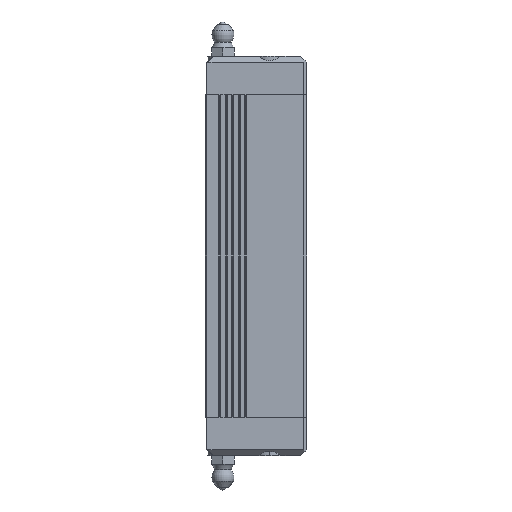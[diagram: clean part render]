
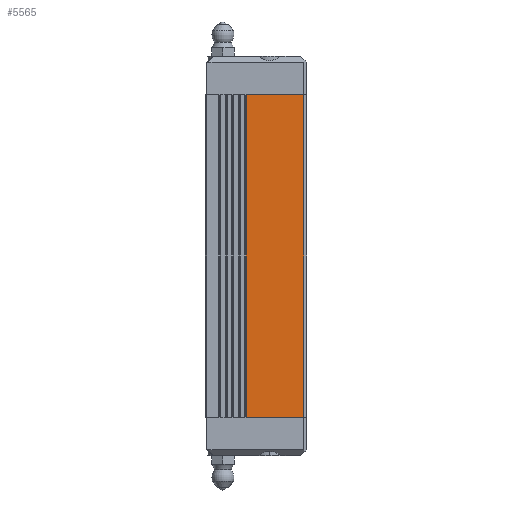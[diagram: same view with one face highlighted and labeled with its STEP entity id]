
A CAD part, left-side view. The second image highlights one B-rep face of the part: STEP entity #5565.
In plain terms, the highlighted planar face has unit normal (-1, 0, 0).
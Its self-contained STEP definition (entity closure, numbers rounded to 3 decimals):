
#5536 = EDGE_CURVE ( 'NONE', #5537, #5538, #15986, .T. ) ;
#5537 = VERTEX_POINT ( 'NONE', #15982 ) ;
#5538 = VERTEX_POINT ( 'NONE', #15981 ) ;
#5539 = ORIENTED_EDGE ( 'NONE', *, *, #5540, .F. ) ;
#5540 = EDGE_CURVE ( 'NONE', #5541, #5538, #15980, .T. ) ;
#5541 = VERTEX_POINT ( 'NONE', #15976 ) ;
#5542 = ORIENTED_EDGE ( 'NONE', *, *, #5543, .F. ) ;
#5543 = EDGE_CURVE ( 'NONE', #5544, #5541, #15975, .T. ) ;
#5544 = VERTEX_POINT ( 'NONE', #15971 ) ;
#5545 = ORIENTED_EDGE ( 'NONE', *, *, #5546, .T. ) ;
#5546 = EDGE_CURVE ( 'NONE', #5544, #5537, #15969, .T. ) ;
#5565 = ADVANCED_FACE ( 'NONE', ( #16064 ), #16063, .F. ) ;
#5566 = EDGE_LOOP ( 'NONE', ( #5567, #5539, #5542, #5545 ) ) ;
#5567 = ORIENTED_EDGE ( 'NONE', *, *, #5536, .T. ) ;
#15370 = VECTOR ( 'NONE', #15628, 1000. ) ;
#15628 = DIRECTION ( 'NONE',  ( 0., 0., -1. ) ) ;
#15968 = CARTESIAN_POINT ( 'NONE',  ( -31., 18.7, 50. ) ) ;
#15969 = LINE ( 'NONE', #15968, #15370 ) ;
#15971 = CARTESIAN_POINT ( 'NONE',  ( -31., 18.7, 50. ) ) ;
#15972 = DIRECTION ( 'NONE',  ( 0., -1., 0. ) ) ;
#15973 = VECTOR ( 'NONE', #15972, 1000. ) ;
#15974 = CARTESIAN_POINT ( 'NONE',  ( -31., 1., 50. ) ) ;
#15975 = LINE ( 'NONE', #15974, #15973 ) ;
#15976 = CARTESIAN_POINT ( 'NONE',  ( -31., 1., 50. ) ) ;
#15977 = DIRECTION ( 'NONE',  ( 0., 0., -1. ) ) ;
#15978 = VECTOR ( 'NONE', #15977, 1000. ) ;
#15979 = CARTESIAN_POINT ( 'NONE',  ( -31., 1., 50. ) ) ;
#15980 = LINE ( 'NONE', #15979, #15978 ) ;
#15981 = CARTESIAN_POINT ( 'NONE',  ( -31., 1., -50. ) ) ;
#15982 = CARTESIAN_POINT ( 'NONE',  ( -31., 18.7, -50. ) ) ;
#15983 = DIRECTION ( 'NONE',  ( 0., -1., 0. ) ) ;
#15984 = VECTOR ( 'NONE', #15983, 1000. ) ;
#15985 = CARTESIAN_POINT ( 'NONE',  ( -31., 31., -50. ) ) ;
#15986 = LINE ( 'NONE', #15985, #15984 ) ;
#16059 = DIRECTION ( 'NONE',  ( 0., 0., -1. ) ) ;
#16060 = DIRECTION ( 'NONE',  ( 1., 0., 0. ) ) ;
#16061 = CARTESIAN_POINT ( 'NONE',  ( -31., 1., 50. ) ) ;
#16062 = AXIS2_PLACEMENT_3D ( 'NONE', #16061, #16060, #16059 ) ;
#16063 = PLANE ( 'NONE',  #16062 ) ;
#16064 = FACE_OUTER_BOUND ( 'NONE', #5566, .T. ) ;
